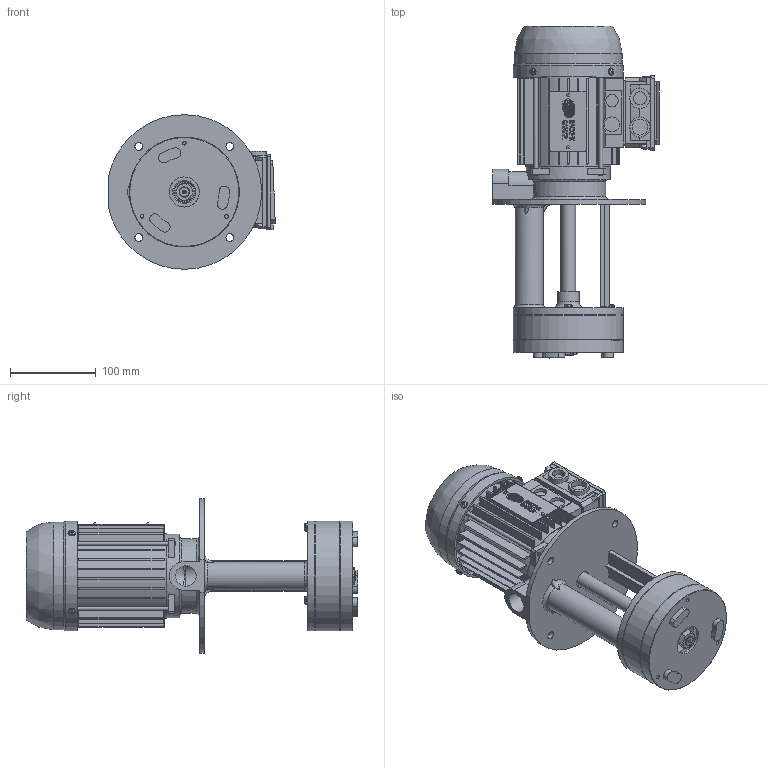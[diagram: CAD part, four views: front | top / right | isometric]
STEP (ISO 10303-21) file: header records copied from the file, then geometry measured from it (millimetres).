
FILE_DESCRIPTION(/* description */ (''),/* implementation_level */ '2;1');
FILE_NAME(/* name */ 'T:\PROGETTI\2019 - REVISIONE CATALOGHI\STEP\MP 63-71\YT63MPC++180.stp',/* time_stamp */ '2019-05-20T14:13:05+02:00',/* author */ ('cboccato'),/* organization */ (''),/* preprocessor_version */ 'ST-DEVELOPER v17.2',/* originating_system */ 'Autodesk Inventor 2019',/* authorisation */ '');
FILE_SCHEMA (('CONFIG_CONTROL_DESIGN'));
Products named in the file (1): YT63MPC++180_iLogic_Shrinkwrap
Bounding box: 193.93 x 386.27 x 179.97 mm (x, y, z)
Volume: 1211223.9 mm3; surface area: 569156.1 mm2
Topology: 99 solids, 113 shells, 2909 faces, 7625 edges, 5060 vertices
Faces by surface type: plane 1930, cylinder 615, cone 207, bspline 88, torus 55, sphere 14
Full cylindrical faces by diameter (mm): 2 x2, 2.53 x2, 3 x4, 3.2 x7, 3.5 x4, 3.8 x1, 3.9 x4, 4 x4, 4.134 x3, 4.3 x4, 4.35 x4, 4.459 x4, 4.6 x4, 5 x3, 5.5 x3, 6.9 x3, 7.2 x4, 7.6 x1, 9 x4, 9.6 x4, 12 x2, 14.4 x2, 14.8 x1, 15 x2, 16 x1, 16.2 x1, 17 x3, 17.4 x2, 17.55 x1, 18.5 x1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
Entity records: 98978 total; most frequent: CARTESIAN_POINT 23276, ORIENTED_EDGE 15442, DIRECTION 14289, EDGE_CURVE 7721, VERTEX_POINT 5254, LINE 5015, VECTOR 5015, AXIS2_PLACEMENT_3D 4637
